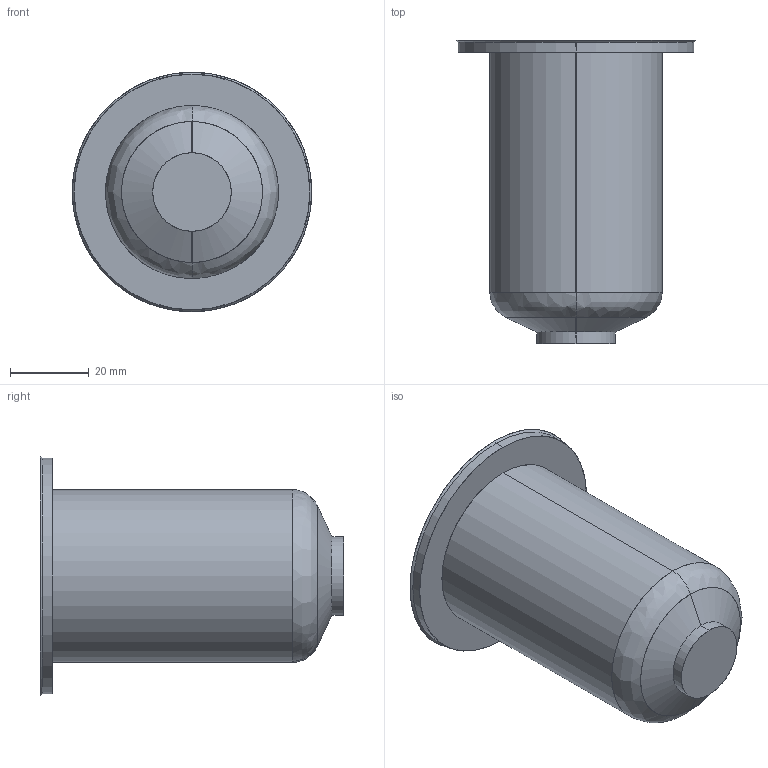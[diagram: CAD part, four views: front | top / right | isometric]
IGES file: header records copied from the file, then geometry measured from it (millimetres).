
Start section: SolidWorks IGES file using analytic representation for surfaces
Global section: file name: C:\Documents and Settings\ws-20\Desktop\TEM\Sede UGER6603-M-A C-74 L-119.IGS; native system: SolidWorks 2012; preprocessor: SolidWorks 2012; author: ws-20; date: 120417.105433; units: millimetre
Bounding box: 61 x 77.19 x 61 mm (x, y, z)
Surface area: 15587.1 mm2 (no closed solid volume)
Topology: 0 solids, 0 shells, 15 faces, 272 edges, 272 vertices
Faces by surface type: revolution 10, bspline 5
